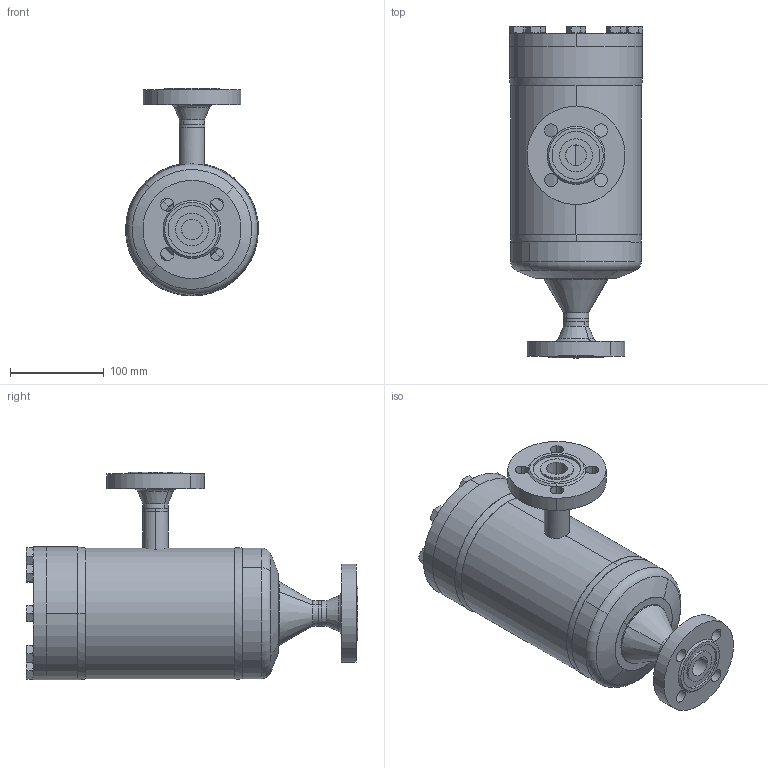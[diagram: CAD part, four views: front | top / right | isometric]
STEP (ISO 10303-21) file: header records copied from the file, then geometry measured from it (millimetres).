
FILE_DESCRIPTION (( 'STEP AP214' ), '1' );
FILE_NAME ('FT56720D11-DN20-1_DIN-FL-N_PS40.STEP', '2010-09-13T08:42:26', ( 'Eckhard Grams' ), ( 'AWP Kälte Klima Armaturen GmbH' ), 'SwSTEP 2.0', 'SolidWorks 2002296', '' );
FILE_SCHEMA (( 'AUTOMOTIVE_DESIGN' ));
Length unit declared in the file: millimetre
Products named in the file (18): FT56720D11-DN20-1_DIN-FL-N_PS40; FT56700D11-DN20-1_PS40_Standard; FT Deckel-Schrauben-DN20-50_PS25_Standard; Deckel56700E15-DN20-50_PS40_Standard; Sechskantschraube-DIN933_M12x 30; Geh-kpl-FT-DN20-1_Standard; Rohrstutzen-FT-DN20-80_DN 20; Kopfstück-FT-DN20-50_PS40_Standard; FT Boden-Führungsrohr DN20_PS25_Standard; bead-Bo-Fü-20-50_Standard; Boden-FT-DN20-80_DN 20 bis 50-4 PN 40; Führungsrohr-FT-DN20-50_DN 20; Gehäuse-FT-DN20-50_PS40_20-1; bead20-Geh-Ko1_Standard; bead20-Geh-Bo1_Standard; Flansch-DIN2635-Nut_PS40_DIN-Flansch-DN020_PS40-Nut; bead56720-20-1b_Standard; bead56720-20-1a_Standard
Assembly tree (25 placements, depth 5):
  FT56720D11-DN20-1_DIN-FL-N_PS40
    FT56700D11-DN20-1_PS40_Standard
      Geh-kpl-FT-DN20-1_Standard
        Kopfstück-FT-DN20-50_PS40_Standard
        bead20-Geh-Bo1_Standard
        Rohrstutzen-FT-DN20-80_DN 20
        FT Boden-Führungsrohr DN20_PS25_Standard
          bead-Bo-Fü-20-50_Standard
          Boden-FT-DN20-80_DN 20 bis 50-4 PN 40
          Führungsrohr-FT-DN20-50_DN 20
        Gehäuse-FT-DN20-50_PS40_20-1
        bead20-Geh-Ko1_Standard
      FT Deckel-Schrauben-DN20-50_PS25_Standard
        Sechskantschraube-DIN933_M12x 30  x8
        Deckel56700E15-DN20-50_PS40_Standard
    Flansch-DIN2635-Nut_PS40_DIN-Flansch-DN020_PS40-Nut  x2
    bead56720-20-1b_Standard
    bead56720-20-1a_Standard
Bounding box: 142.78 x 354.28 x 222 mm (x, y, z)
Volume: 1593768.7 mm3; surface area: 433263.6 mm2
Topology: 21 solids, 21 shells, 481 faces, 1082 edges, 646 vertices
Faces by surface type: cone 190, cylinder 145, plane 110, bspline 20, torus 12, sphere 4
Entity records: 14817 total; most frequent: CARTESIAN_POINT 7763, DIRECTION 1378, ORIENTED_EDGE 1240, EDGE_CURVE 620, AXIS2_PLACEMENT_3D 592, VERTEX_POINT 384, EDGE_LOOP 338, CIRCLE 306
